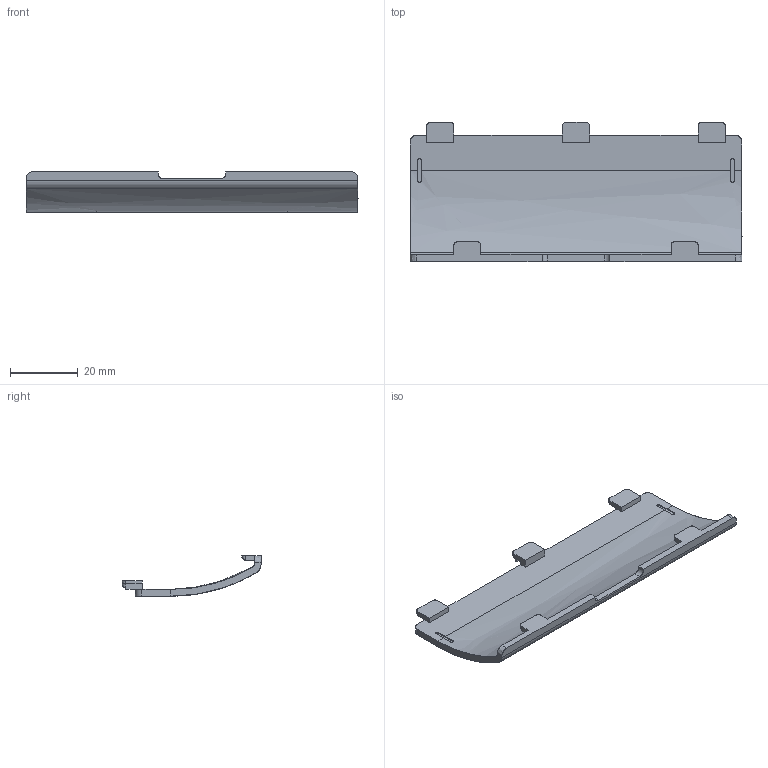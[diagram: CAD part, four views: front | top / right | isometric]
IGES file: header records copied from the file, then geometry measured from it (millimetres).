
Start section: SolidWorks IGES file using analytic representation for surfaces
Global section: file name: C:\Users\holy\Desktop\KRC5FH\KRC-5FH-sample\KRC5FH-3D-sample\IGES\Bat-cover.igs; native system: Rhinoceros ( Feb 26 2015 ); preprocessor: Trout Lake IGES 012 Feb 26 2015; date: 150604.025001; units: millimetre
Bounding box: 97.8 x 40.99 x 11.9 mm (x, y, z)
Surface area: 8909.6 mm2 (no closed solid volume)
Topology: 0 solids, 0 shells, 98 faces, 877 edges, 877 vertices
Faces by surface type: bspline 98
